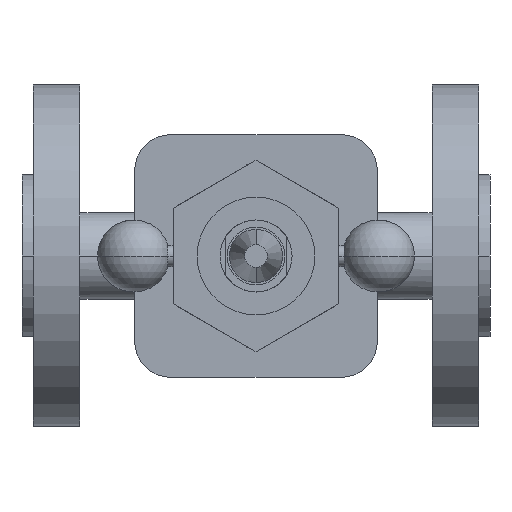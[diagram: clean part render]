
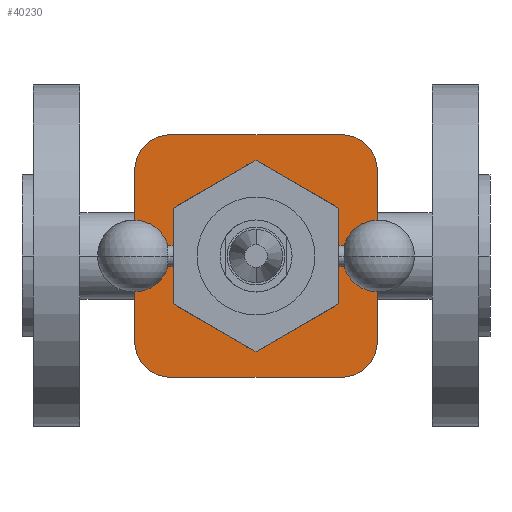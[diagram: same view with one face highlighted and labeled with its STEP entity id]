
A CAD part, front view. The second image highlights one B-rep face of the part: STEP entity #40230.
In plain terms, the highlighted planar face has unit normal (0, -1, 0).
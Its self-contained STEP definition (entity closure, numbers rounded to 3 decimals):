
#11770=CARTESIAN_POINT('',(44.,-61.5,0.));
#11780=VERTEX_POINT('',#11770);
#11940=CARTESIAN_POINT('',(86.,-61.5,0.));
#11950=VERTEX_POINT('',#11940);
#11980=CARTESIAN_POINT('',(65.,-61.5,0.));
#11990=DIRECTION('',(0.,-1.,0.));
#12000=DIRECTION('',(-1.,0.,0.));
#12010=AXIS2_PLACEMENT_3D('',#11980,#11990,#12000);
#12020=CIRCLE('',#12010,21.);
#12030=EDGE_CURVE('',#11780,#11950,#12020,.T.);
#37320=CARTESIAN_POINT('',(41.312,-61.5,33.688));
#37330=VERTEX_POINT('',#37320);
#37380=CARTESIAN_POINT('',(41.312,-61.5,23.688));
#37390=DIRECTION('',(0.,-1.,0.));
#37400=DIRECTION('',(-1.,0.,0.));
#37410=AXIS2_PLACEMENT_3D('',#37380,#37390,#37400);
#37420=CIRCLE('',#37410,10.);
#37430=CARTESIAN_POINT('',(31.312,-61.5,23.688));
#37440=VERTEX_POINT('',#37430);
#37450=EDGE_CURVE('',#37330,#37440,#37420,.T.);
#39280=CARTESIAN_POINT('',(31.312,-61.5,-11.844));
#39290=DIRECTION('',(0.,0.,-1.));
#39300=VECTOR('',#39290,1.);
#39310=LINE('',#39280,#39300);
#39320=CARTESIAN_POINT('',(31.312,-61.5,-23.688));
#39330=VERTEX_POINT('',#39320);
#39340=EDGE_CURVE('',#37440,#39330,#39310,.T.);
#39600=CARTESIAN_POINT('',(32.25,-61.5,0.));
#39610=DIRECTION('',(0.,-1.,0.));
#39620=DIRECTION('',(-1.,0.,0.));
#39630=AXIS2_PLACEMENT_3D('',#39600,#39610,#39620);
#39640=PLANE('',#39630);
#39650=ORIENTED_EDGE('',*,*,#37450,.T.);
#39660=CARTESIAN_POINT('',(36.781,-61.5,33.688));
#39670=DIRECTION('',(-1.,0.,0.));
#39680=VECTOR('',#39670,1.);
#39690=LINE('',#39660,#39680);
#39700=CARTESIAN_POINT('',(88.688,-61.5,33.688));
#39710=VERTEX_POINT('',#39700);
#39720=EDGE_CURVE('',#39710,#37330,#39690,.T.);
#39730=ORIENTED_EDGE('',*,*,#39720,.T.);
#39740=CARTESIAN_POINT('',(88.688,-61.5,23.688));
#39750=DIRECTION('',(0.,-1.,0.));
#39760=DIRECTION('',(0.,0.,1.));
#39770=AXIS2_PLACEMENT_3D('',#39740,#39750,#39760);
#39780=CIRCLE('',#39770,10.);
#39790=CARTESIAN_POINT('',(98.688,-61.5,23.688));
#39800=VERTEX_POINT('',#39790);
#39810=EDGE_CURVE('',#39800,#39710,#39780,.T.);
#39820=ORIENTED_EDGE('',*,*,#39810,.T.);
#39830=CARTESIAN_POINT('',(98.688,-61.5,11.844));
#39840=DIRECTION('',(0.,0.,1.));
#39850=VECTOR('',#39840,1.);
#39860=LINE('',#39830,#39850);
#39870=CARTESIAN_POINT('',(98.688,-61.5,-23.688));
#39880=VERTEX_POINT('',#39870);
#39890=EDGE_CURVE('',#39880,#39800,#39860,.T.);
#39900=ORIENTED_EDGE('',*,*,#39890,.T.);
#39910=CARTESIAN_POINT('',(88.688,-61.5,-23.688));
#39920=DIRECTION('',(0.,-1.,0.));
#39930=DIRECTION('',(1.,0.,0.));
#39940=AXIS2_PLACEMENT_3D('',#39910,#39920,#39930);
#39950=CIRCLE('',#39940,10.);
#39960=CARTESIAN_POINT('',(88.688,-61.5,-33.688));
#39970=VERTEX_POINT('',#39960);
#39980=EDGE_CURVE('',#39970,#39880,#39950,.T.);
#39990=ORIENTED_EDGE('',*,*,#39980,.T.);
#40000=CARTESIAN_POINT('',(60.469,-61.5,-33.688));
#40010=DIRECTION('',(1.,0.,0.));
#40020=VECTOR('',#40010,1.);
#40030=LINE('',#40000,#40020);
#40040=CARTESIAN_POINT('',(41.312,-61.5,-33.688));
#40050=VERTEX_POINT('',#40040);
#40060=EDGE_CURVE('',#40050,#39970,#40030,.T.);
#40070=ORIENTED_EDGE('',*,*,#40060,.T.);
#40080=CARTESIAN_POINT('',(41.312,-61.5,-23.688));
#40090=DIRECTION('',(0.,-1.,0.));
#40100=DIRECTION('',(0.,0.,-1.));
#40110=AXIS2_PLACEMENT_3D('',#40080,#40090,#40100);
#40120=CIRCLE('',#40110,10.);
#40130=EDGE_CURVE('',#39330,#40050,#40120,.T.);
#40140=ORIENTED_EDGE('',*,*,#40130,.T.);
#40150=ORIENTED_EDGE('',*,*,#39340,.T.);
#40160=EDGE_LOOP('',(#40150,#40140,#40070,#39990,#39900,#39820,#39730,
#39650));
#40170=FACE_OUTER_BOUND('',#40160,.T.);
#40180=EDGE_CURVE('',#11950,#11780,#12020,.T.);
#40190=ORIENTED_EDGE('',*,*,#40180,.F.);
#40200=ORIENTED_EDGE('',*,*,#12030,.F.);
#40210=EDGE_LOOP('',(#40200,#40190));
#40220=FACE_BOUND('',#40210,.T.);
#40230=ADVANCED_FACE('',(#40170,#40220),#39640,.T.);
